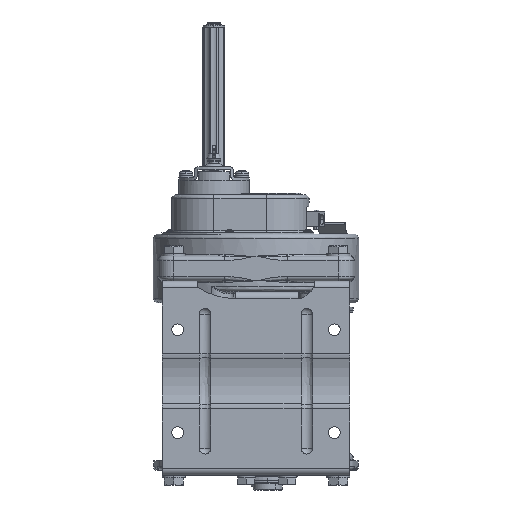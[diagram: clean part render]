
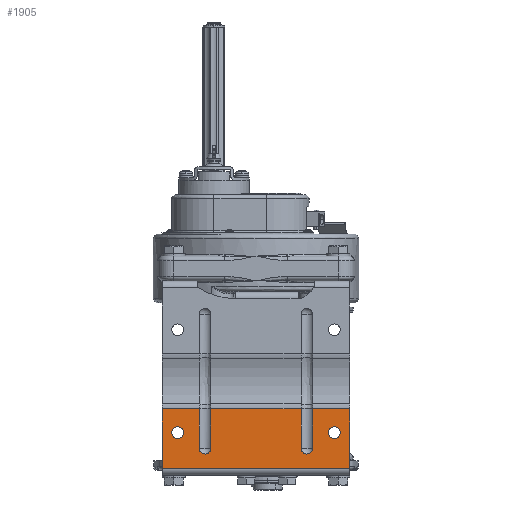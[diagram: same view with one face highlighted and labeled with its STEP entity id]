
A CAD part, front view. The second image highlights one B-rep face of the part: STEP entity #1905.
In plain terms, the highlighted planar face has unit normal (0, -1, 0).
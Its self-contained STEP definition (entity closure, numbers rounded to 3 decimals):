
#1905=ADVANCED_FACE('',(#20777,#20778,#20779),#20776,.T.);
#20776=PLANE('',#42069);
#20777=FACE_OUTER_BOUND('',#42070,.T.);
#20778=FACE_BOUND('',#42071,.T.);
#20779=FACE_BOUND('',#42072,.T.);
#42066=CARTESIAN_POINT('',(11.,-36.383,-223.2));
#42067=DIRECTION('',(0.,-1.,0.));
#42068=DIRECTION('',(0.,0.,1.));
#42069=AXIS2_PLACEMENT_3D('',#42066,#42067,#42068);
#42070=EDGE_LOOP('',(#58978,#58979,#58980,#58981,#58982,#58983,#58984,#58985,#58986,#58987,#58988,#58989));
#42071=EDGE_LOOP('',(#58990,#58991));
#42072=EDGE_LOOP('',(#58992,#58993));
#58978=ORIENTED_EDGE('',*,*,#68804,.T.);
#58979=ORIENTED_EDGE('',*,*,#68805,.F.);
#58980=ORIENTED_EDGE('',*,*,#68806,.T.);
#58981=ORIENTED_EDGE('',*,*,#68807,.T.);
#58982=ORIENTED_EDGE('',*,*,#68808,.T.);
#58983=ORIENTED_EDGE('',*,*,#68809,.F.);
#58984=ORIENTED_EDGE('',*,*,#68810,.F.);
#58985=ORIENTED_EDGE('',*,*,#68811,.T.);
#58986=ORIENTED_EDGE('',*,*,#68812,.T.);
#58987=ORIENTED_EDGE('',*,*,#68813,.F.);
#58988=ORIENTED_EDGE('',*,*,#68814,.F.);
#58989=ORIENTED_EDGE('',*,*,#68815,.T.);
#58990=ORIENTED_EDGE('',*,*,#68816,.F.);
#58991=ORIENTED_EDGE('',*,*,#68817,.F.);
#58992=ORIENTED_EDGE('',*,*,#68818,.F.);
#58993=ORIENTED_EDGE('',*,*,#68819,.F.);
#68804=EDGE_CURVE('',#105453,#105454,#105455,.T.);
#68805=EDGE_CURVE('',#105461,#105454,#105462,.T.);
#68806=EDGE_CURVE('',#105461,#105468,#105469,.T.);
#68807=EDGE_CURVE('',#105468,#105475,#105476,.T.);
#68808=EDGE_CURVE('',#105475,#105482,#105483,.T.);
#68809=EDGE_CURVE('',#105489,#105482,#105490,.T.);
#68810=EDGE_CURVE('',#105496,#105489,#105497,.T.);
#68811=EDGE_CURVE('',#105496,#105503,#105504,.T.);
#68812=EDGE_CURVE('',#105503,#105510,#105511,.T.);
#68813=EDGE_CURVE('',#105517,#105510,#105518,.T.);
#68814=EDGE_CURVE('',#105524,#105517,#105525,.T.);
#68815=EDGE_CURVE('',#105524,#105453,#105531,.T.);
#68816=EDGE_CURVE('',#105537,#105538,#105539,.T.);
#68817=EDGE_CURVE('',#105538,#105537,#105545,.T.);
#68818=EDGE_CURVE('',#105551,#105552,#105553,.T.);
#68819=EDGE_CURVE('',#105552,#105551,#105559,.T.);
#105453=VERTEX_POINT('',#138808);
#105454=VERTEX_POINT('',#138809);
#105455=LINE('',#138810,#138811);
#105461=VERTEX_POINT('',#138813);
#105462=LINE('',#138814,#138815);
#105468=VERTEX_POINT('',#138817);
#105469=CIRCLE('',#138821,6.);
#105475=VERTEX_POINT('',#138822);
#105476=LINE('',#138823,#138824);
#105482=VERTEX_POINT('',#138826);
#105483=LINE('',#138827,#138828);
#105489=VERTEX_POINT('',#138830);
#105490=LINE('',#138831,#138832);
#105496=VERTEX_POINT('',#138834);
#105497=CIRCLE('',#138838,6.);
#105503=VERTEX_POINT('',#138839);
#105504=LINE('',#138840,#138841);
#105510=VERTEX_POINT('',#138843);
#105511=LINE('',#138844,#138845);
#105517=VERTEX_POINT('',#138847);
#105518=LINE('',#138848,#138849);
#105524=VERTEX_POINT('',#138851);
#105525=LINE('',#138852,#138853);
#105531=LINE('',#138855,#138856);
#105537=VERTEX_POINT('',#138858);
#105538=VERTEX_POINT('',#138859);
#105539=CIRCLE('',#138863,6.);
#105545=CIRCLE('',#138867,6.);
#105551=VERTEX_POINT('',#138868);
#105552=VERTEX_POINT('',#138869);
#105553=CIRCLE('',#138873,6.);
#105559=CIRCLE('',#138877,6.);
#138808=CARTESIAN_POINT('',(1.,-36.383,-156.096));
#138809=CARTESIAN_POINT('',(-37.,-36.383,-156.096));
#138810=CARTESIAN_POINT('',(1.,-36.383,-156.096));
#138811=VECTOR('',#138812,38.);
#138812=DIRECTION('',(-1.,0.,0.));
#138813=CARTESIAN_POINT('',(-37.,-36.383,-196.302));
#138814=CARTESIAN_POINT('',(-37.,-36.383,-196.302));
#138815=VECTOR('',#138816,40.206);
#138816=DIRECTION('',(0.,0.,1.));
#138817=CARTESIAN_POINT('',(-49.,-36.383,-196.302));
#138818=CARTESIAN_POINT('',(-43.,-36.383,-196.302));
#138819=DIRECTION('',(0.,1.,0.));
#138820=DIRECTION('',(1.,0.,0.));
#138821=AXIS2_PLACEMENT_3D('',#138818,#138819,#138820);
#138822=CARTESIAN_POINT('',(-49.,-36.383,-156.096));
#138823=CARTESIAN_POINT('',(-49.,-36.383,-196.302));
#138824=VECTOR('',#138825,40.206);
#138825=DIRECTION('',(0.,0.,1.));
#138826=CARTESIAN_POINT('',(-141.,-36.383,-156.096));
#138827=CARTESIAN_POINT('',(-49.,-36.383,-156.096));
#138828=VECTOR('',#138829,92.);
#138829=DIRECTION('',(-1.,0.,0.));
#138830=CARTESIAN_POINT('',(-141.,-36.383,-196.302));
#138831=CARTESIAN_POINT('',(-141.,-36.383,-196.302));
#138832=VECTOR('',#138833,40.206);
#138833=DIRECTION('',(0.,0.,1.));
#138834=CARTESIAN_POINT('',(-153.,-36.383,-196.302));
#138835=CARTESIAN_POINT('',(-147.,-36.383,-196.302));
#138836=DIRECTION('',(0.,-1.,0.));
#138837=DIRECTION('',(1.,0.,0.));
#138838=AXIS2_PLACEMENT_3D('',#138835,#138836,#138837);
#138839=CARTESIAN_POINT('',(-153.,-36.383,-156.096));
#138840=CARTESIAN_POINT('',(-153.,-36.383,-196.302));
#138841=VECTOR('',#138842,40.206);
#138842=DIRECTION('',(0.,0.,1.));
#138843=CARTESIAN_POINT('',(-191.,-36.383,-156.096));
#138844=CARTESIAN_POINT('',(-153.,-36.383,-156.096));
#138845=VECTOR('',#138846,38.);
#138846=DIRECTION('',(-1.,0.,0.));
#138847=CARTESIAN_POINT('',(-191.,-36.383,-217.1));
#138848=CARTESIAN_POINT('',(-191.,-36.383,-217.1));
#138849=VECTOR('',#138850,61.004);
#138850=DIRECTION('',(0.,0.,1.));
#138851=CARTESIAN_POINT('',(1.,-36.383,-217.1));
#138852=CARTESIAN_POINT('',(1.,-36.383,-217.1));
#138853=VECTOR('',#138854,192.);
#138854=DIRECTION('',(-1.,0.,0.));
#138855=CARTESIAN_POINT('',(1.,-36.383,-217.1));
#138856=VECTOR('',#138857,61.004);
#138857=DIRECTION('',(0.,0.,1.));
#138858=CARTESIAN_POINT('',(-15.,-36.383,-186.4));
#138859=CARTESIAN_POINT('',(-15.,-36.383,-174.4));
#138860=CARTESIAN_POINT('',(-15.,-36.383,-180.4));
#138861=DIRECTION('',(0.,-1.,0.));
#138862=DIRECTION('',(0.,0.,1.));
#138863=AXIS2_PLACEMENT_3D('',#138860,#138861,#138862);
#138864=CARTESIAN_POINT('',(-15.,-36.383,-180.4));
#138865=DIRECTION('',(0.,-1.,0.));
#138866=DIRECTION('',(0.,0.,1.));
#138867=AXIS2_PLACEMENT_3D('',#138864,#138865,#138866);
#138868=CARTESIAN_POINT('',(-175.,-36.383,-186.4));
#138869=CARTESIAN_POINT('',(-175.,-36.383,-174.4));
#138870=CARTESIAN_POINT('',(-175.,-36.383,-180.4));
#138871=DIRECTION('',(0.,-1.,0.));
#138872=DIRECTION('',(0.,0.,1.));
#138873=AXIS2_PLACEMENT_3D('',#138870,#138871,#138872);
#138874=CARTESIAN_POINT('',(-175.,-36.383,-180.4));
#138875=DIRECTION('',(0.,-1.,0.));
#138876=DIRECTION('',(0.,0.,1.));
#138877=AXIS2_PLACEMENT_3D('',#138874,#138875,#138876);
